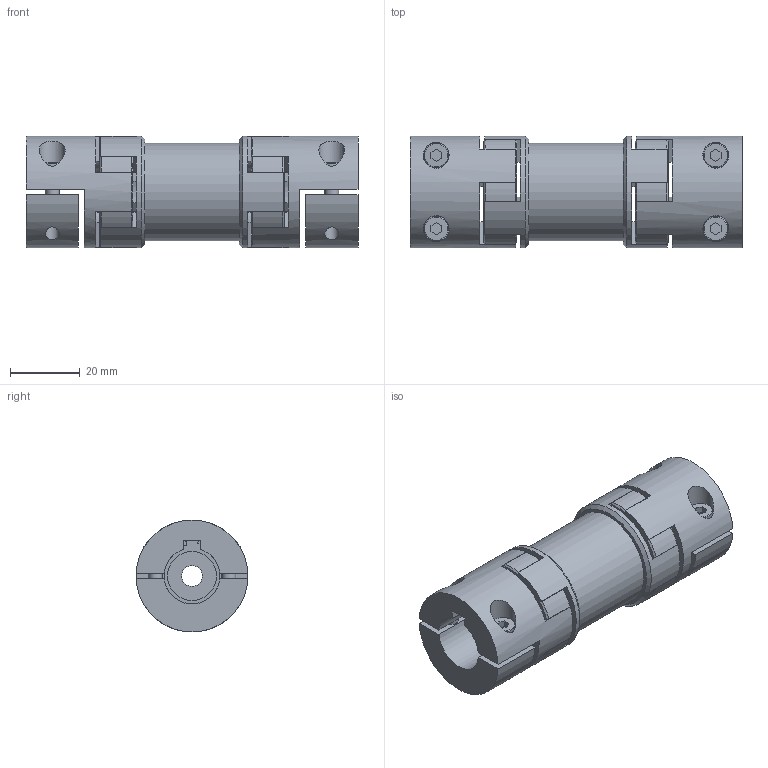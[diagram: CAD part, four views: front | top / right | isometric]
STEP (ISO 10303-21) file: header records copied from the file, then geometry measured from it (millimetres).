
FILE_DESCRIPTION(/* description */ ('STEP AP214'),/* implementation_level */ '2;1');
FILE_NAME(/* name */ 'C:\Diequa Files\DieQua Coupling\LE\STP\LE.10.L.AB.#.#.stp',/* time_stamp */ '2019-05-02T09:32:53-05:00',/* author */ ('DiequaCAD'),/* organization */ (''),/* preprocessor_version */ 'ST-DEVELOPER v18',/* originating_system */ 'Autodesk Inventor 2020',/* authorisation */ ' ');
FILE_SCHEMA (('AUTOMOTIVE_DESIGN { 1 0 10303 214 3 1 1 }'));
Length unit declared in the file: millimetre
Products named in the file (1): EZ2_10_16_PFN_16_PFN_1
Bounding box: 95 x 32 x 32 mm (x, y, z)
Volume: 43437.1 mm3; surface area: 23571.5 mm2
Topology: 1 solids, 1 shells, 242 faces, 678 edges, 446 vertices
Faces by surface type: plane 140, cylinder 72, cone 26, torus 4
Full cylindrical faces by diameter (mm): 4 x8, 4.2 x4, 6 x2, 7 x4, 7.4 x4, 14 x2, 22.4 x1, 28 x1, 32 x4
Entity records: 8192 total; most frequent: CARTESIAN_POINT 1671, DIRECTION 1360, ORIENTED_EDGE 1356, EDGE_CURVE 678, AXIS2_PLACEMENT_3D 455, LINE 450, VECTOR 450, VERTEX_POINT 446
